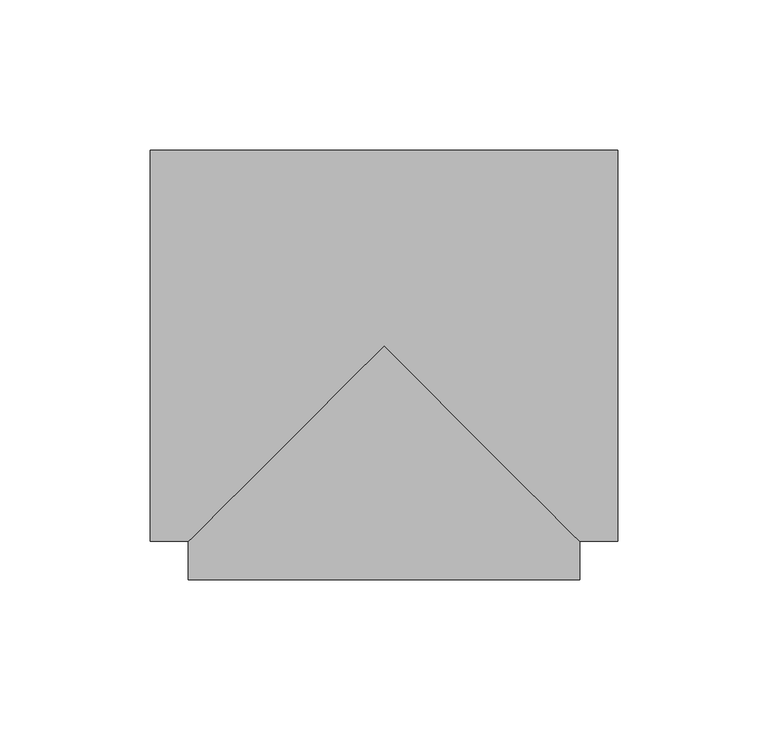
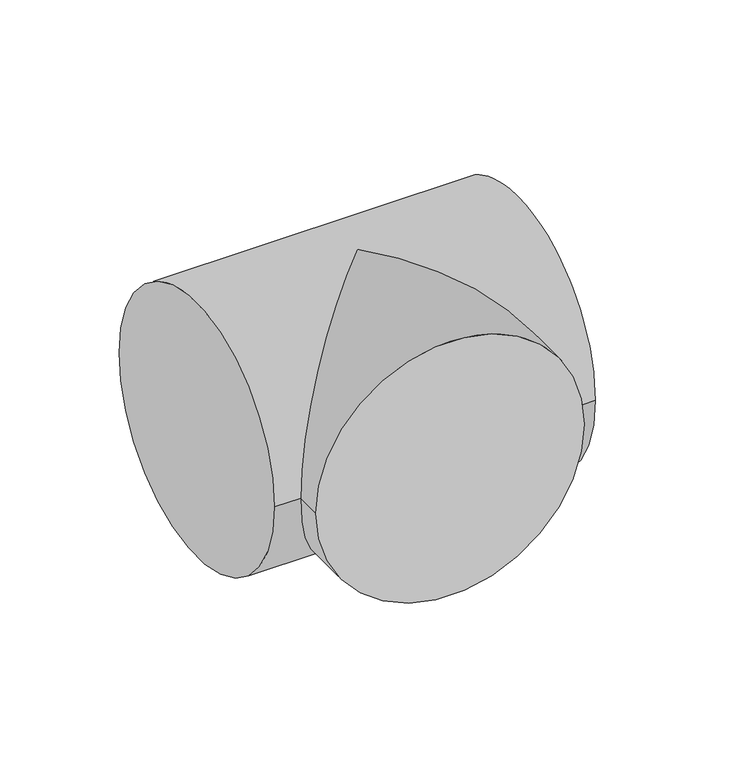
"""IFC4 building model written with IfcOpenShell, lengths in millimetres: pipe fitting geometry, M_Te - Genérica : Estándar."""

from ifc_helpers import new_model, si_unit, frame, origin, place, context, project, spatial, circle_curve, ellipse_curve, source, transform, mapped, element, save
from ifc_brep_helpers import plane_surface, cylinder_surface, advanced_brep


def pipe_fitting_014d1fef(model_context):
    return source(origin(), model_context, "Body", "AdvancedBrep", [
        advanced_brep(
        [(-77.7875, -65.0875, 0.0), (-77.7875, 65.0875, 0.0), (77.7875, -65.0875, 0.0), (77.7875, 65.0875, 0.0), (-65.0809922, -65.0875, 0.0), (0.0, 0.0, 65.0875), (65.0940084, -65.0875, 0.0), (0.0, 0.0, -65.0875), (-65.0797217, -77.7940077, 0.0), (65.0952776, -77.7809915, 0.0)],
        [
            (0, 1, circle_curve(frame((-77.7875, 0.0, 0.0), z_axis=(-1.0, 0.0, 0.0), x_axis=(0.0, 1.0, 0.0)), 65.0875)),
            (1, 0, circle_curve(frame((-77.7875, 0.0, 0.0), z_axis=(-1.0, 0.0, 0.0), x_axis=(0.0, 1.0, 0.0)), 65.0875)),
            (2, 3, circle_curve(frame((77.7875, 0.0, 0.0), z_axis=(1.0, 0.0, 0.0), x_axis=(0.0, 1.0, 0.0)), 65.0875)),
            (3, 2, circle_curve(frame((77.7875, 0.0, 0.0), z_axis=(1.0, 0.0, 0.0), x_axis=(0.0, 1.0, 0.0)), 65.0875)),
            (0, 4),
            (4, 5, ellipse_curve(frame((0.0, 0.0, 0.0), z_axis=(-0.7071421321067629, 0.7070714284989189, 0.0), x_axis=(-0.7070714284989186, -0.7071421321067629, 0.0)), 92.0430237, 65.0875)),
            (5, 6, ellipse_curve(frame((0.0, 0.0, 0.0), z_axis=(0.7070714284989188, 0.7071421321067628, 0.0), x_axis=(-0.7071421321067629, 0.7070714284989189, 0.0)), 92.0522275, 65.0875)),
            (6, 2),
            (3, 1),
            (6, 7, ellipse_curve(frame((0.0, 0.0, 0.0), z_axis=(0.7070714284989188, 0.7071421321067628, 0.0), x_axis=(-0.7071421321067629, 0.7070714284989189, 0.0)), 92.0522275, 65.0875)),
            (7, 4, ellipse_curve(frame((0.0, 0.0, 0.0), z_axis=(-0.7071421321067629, 0.7070714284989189, 0.0), x_axis=(-0.7070714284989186, -0.7071421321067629, 0.0)), 92.0430237, 65.0875)),
            (8, 9, circle_curve(frame((0.007778, -77.7874996, 0.0), z_axis=(9.999000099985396e-05, -0.9999999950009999, 0.0), x_axis=(0.9999999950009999, 9.999000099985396e-05, 0.0)), 65.0875)),
            (9, 8, circle_curve(frame((0.007778, -77.7874996, 0.0), z_axis=(9.999000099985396e-05, -0.9999999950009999, 0.0), x_axis=(0.9999999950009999, 9.999000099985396e-05, 0.0)), 65.0875)),
            (9, 6),
            (4, 8),
        ],
        [
            plane_surface(frame((-77.7875, 0.0, 0.0), z_axis=(-1.0, 0.0, 0.0), x_axis=(0.0, 0.0, 1.0))),
            plane_surface(frame((77.7875, 0.0, 0.0), z_axis=(1.0, 0.0, 0.0), x_axis=(0.0, 0.0, 1.0))),
            cylinder_surface(frame((-77.7875, 0.0, 0.0), z_axis=(-1.0, 0.0, 0.0), x_axis=(0.0, 1.0, 0.0)), 65.0875),
            plane_surface(frame((0.007778, -77.7874996, 0.0), z_axis=(9.999000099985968e-05, -0.9999999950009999, 0.0), x_axis=(0.0, 0.0, 1.0))),
            cylinder_surface(frame((0.0, 0.0, 0.0), z_axis=(-9.999000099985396e-05, 0.9999999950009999, 0.0), x_axis=(0.9999999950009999, 9.999000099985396e-05, 0.0)), 65.0875),
        ],
        [
            (0, [[1, 2]]),
            (1, [[3, 4]]),
            (2, [[-1, 5, 6, 7, 8, -4, 9]]),
            (2, [[-2, -9, -3, -8, 10, 11, -5]]),
            (3, [[12, 13]]),
            (4, [[-13, 14, -7, -6, 15]]),
            (4, [[-12, -15, -11, -10, -14]]),
        ],
    ),
    ])


if __name__ == "__main__":
    model = new_model("IFC4")
    model_context = context("Model", 3, world=origin())
    ifc_project = project(units=[si_unit("LENGTHUNIT", "METRE", prefix="MILLI")], contexts=[model_context])
    site = spatial("IfcSite", under=ifc_project)
    building = spatial("IfcBuilding", under=site)
    placement = place(None, origin())
    pipe_fitting_shape = pipe_fitting_014d1fef(model_context)
    element("IfcPipeFitting", 1, ObjectType="M_Te - Genérica : Estándar", at=placement, inside=building, context=model_context, shape_type="MappedRepresentation", body=[
        mapped(pipe_fitting_shape, transform((0.0, 0.0, 0.0), x_axis=(1.0, 0.0, 0.0), y_axis=(0.0, 1.0, 0.0), z_axis=(0.0, 0.0, 1.0))),
    ])
    save(model, "model.ifc")
